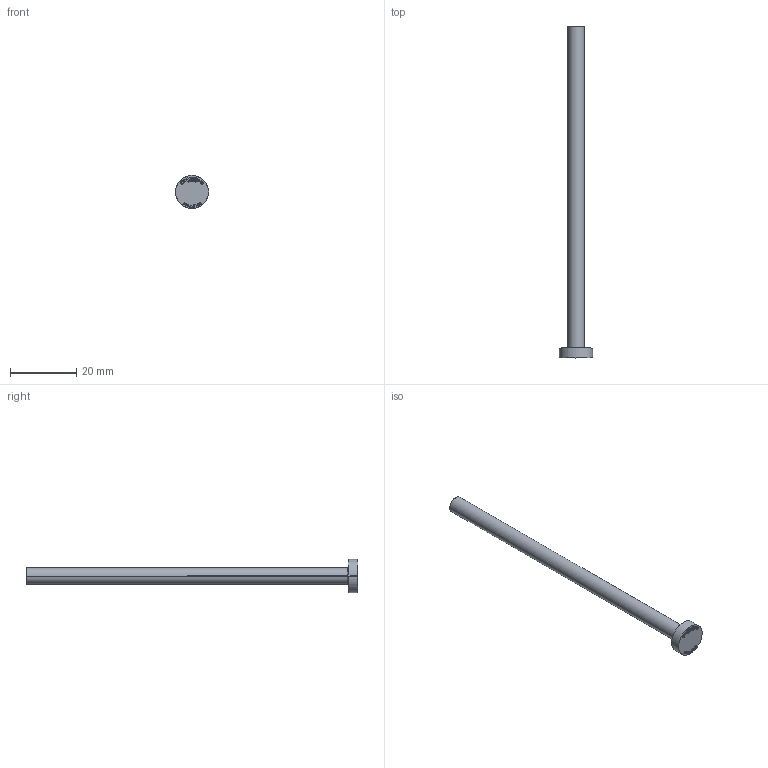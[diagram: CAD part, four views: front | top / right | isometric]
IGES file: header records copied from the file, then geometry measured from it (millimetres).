
Start section: SolidWorks IGES file using analytic representation for surfaces
Global section: file name: C:\Users\User\Downloads\Matripeça 31-08 tar\PB - PINO EXTRATOR TIPO _B_ (CATÁLOGO)\PB05,0\PB05,0100.IGS; native system: SolidWorks 2024; preprocessor: SolidWorks 2024; author: User; date: 260901.142453; units: millimetre
Bounding box: 10 x 100 x 10 mm (x, y, z)
Surface area: 1780.9 mm2 (no closed solid volume)
Topology: 0 solids, 0 shells, 396 faces, 3562 edges, 3562 vertices
Faces by surface type: bspline 382, revolution 14
